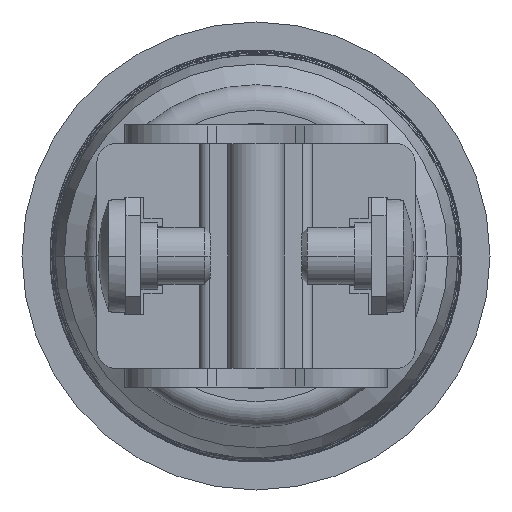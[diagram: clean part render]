
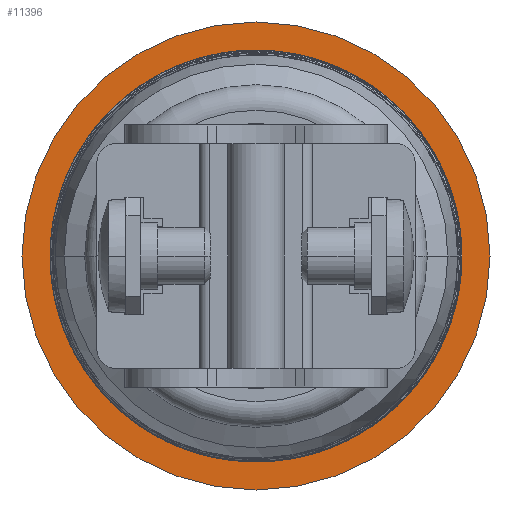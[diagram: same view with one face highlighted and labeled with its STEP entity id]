
A CAD part, front view. The second image highlights one B-rep face of the part: STEP entity #11396.
In plain terms, the highlighted planar face has unit normal (0, -1, 0).
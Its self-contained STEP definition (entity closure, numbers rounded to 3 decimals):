
#1531=CARTESIAN_POINT('',(0.,17.5,0.));
#1532=DIRECTION('',(0.,1.,0.));
#1533=DIRECTION('',(1.,0.,0.));
#1534=AXIS2_PLACEMENT_3D('',#1531,#1532,#1533);
#1536=CARTESIAN_POINT('',(0.,17.5,0.));
#1537=DIRECTION('',(0.,-1.,0.));
#1538=DIRECTION('',(1.,0.,0.));
#1539=AXIS2_PLACEMENT_3D('',#1536,#1537,#1538);
#1541=CARTESIAN_POINT('',(0.,17.5,0.));
#1542=DIRECTION('',(0.,-1.,0.));
#1543=DIRECTION('',(1.,0.,0.));
#1544=AXIS2_PLACEMENT_3D('',#1541,#1542,#1543);
#1554=CARTESIAN_POINT('',(0.,17.5,0.));
#1555=DIRECTION('',(0.,1.,0.));
#1556=DIRECTION('',(1.,0.,0.));
#1557=AXIS2_PLACEMENT_3D('',#1554,#1555,#1556);
#8266=CARTESIAN_POINT('',(12.5,17.5,0.));
#8268=VERTEX_POINT('',#8266);
#8290=CARTESIAN_POINT('',(-12.5,17.5,0.));
#8292=VERTEX_POINT('',#8290);
#8300=CARTESIAN_POINT('',(11.,17.5,0.));
#8301=CARTESIAN_POINT('',(-11.,17.5,0.));
#8302=VERTEX_POINT('',#8300);
#8303=VERTEX_POINT('',#8301);
#11381=CARTESIAN_POINT('',(0.,17.5,0.));
#11382=DIRECTION('',(0.,-1.,0.));
#11383=DIRECTION('',(-1.,0.,0.));
#11384=AXIS2_PLACEMENT_3D('',#11381,#11382,#11383);
#11385=PLANE('',#11384);
#11387=ORIENTED_EDGE('',*,*,#11386,.F.);
#11389=ORIENTED_EDGE('',*,*,#11388,.T.);
#11390=EDGE_LOOP('',(#11387,#11389));
#11391=FACE_OUTER_BOUND('',#11390,.F.);
#11392=ORIENTED_EDGE('',*,*,#11361,.F.);
#11393=ORIENTED_EDGE('',*,*,#11346,.T.);
#11394=EDGE_LOOP('',(#11392,#11393));
#11395=FACE_BOUND('',#11394,.F.);
#1535=CIRCLE('',#1534,11.);
#1540=CIRCLE('',#1539,11.);
#1545=CIRCLE('',#1544,12.5);
#1558=CIRCLE('',#1557,12.5);
#11346=EDGE_CURVE('',#8302,#8303,#1540,.T.);
#11361=EDGE_CURVE('',#8302,#8303,#1535,.T.);
#11386=EDGE_CURVE('',#8268,#8292,#1545,.T.);
#11388=EDGE_CURVE('',#8268,#8292,#1558,.T.);
#11396=ADVANCED_FACE('',(#11391,#11395),#11385,.T.);
